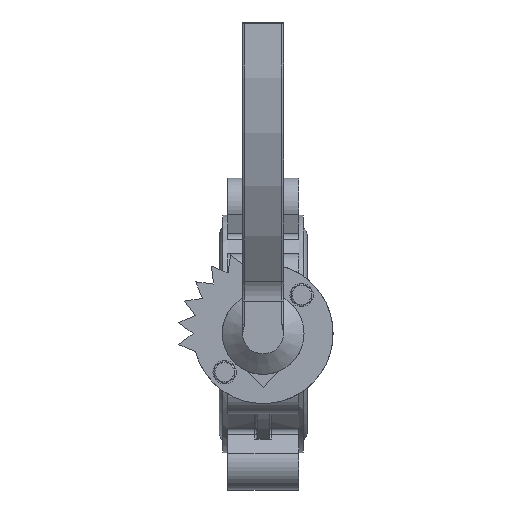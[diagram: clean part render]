
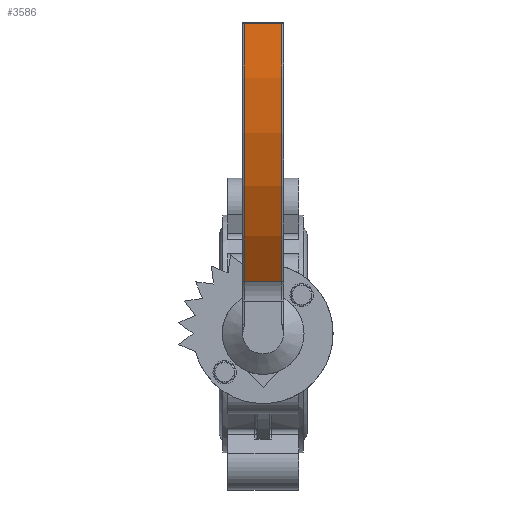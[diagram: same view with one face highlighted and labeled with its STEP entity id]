
A CAD part, top view. The second image highlights one B-rep face of the part: STEP entity #3586.
In plain terms, the highlighted cylindrical face has radius 218.256 mm (diameter 436.512 mm), a partial arc.
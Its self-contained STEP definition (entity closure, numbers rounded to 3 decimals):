
#3586=ADVANCED_FACE('',(#8316),#8318,.T.);
#8316=FACE_BOUND('',#8317,.T.);
#8317=EDGE_LOOP('',(#12516,#12517,#12518,#12519));
#8318=CYLINDRICAL_SURFACE('',#8319,218.256);
#8319=AXIS2_PLACEMENT_3D('',#8320,#8321,#8322);
#8320=CARTESIAN_POINT('',(169.067,-13.125,-146.14));
#8321=DIRECTION('',(0.,1.,0.));
#8322=DIRECTION('',(-0.622,0.,0.783));
#12516=ORIENTED_EDGE('',*,*,#14296,.F.);
#12517=ORIENTED_EDGE('',*,*,#14321,.F.);
#12518=ORIENTED_EDGE('',*,*,#14314,.T.);
#12519=ORIENTED_EDGE('',*,*,#14322,.T.);
#14296=EDGE_CURVE('',#17032,#17035,#17036,.T.);
#14314=EDGE_CURVE('',#17060,#17061,#17062,.T.);
#14321=EDGE_CURVE('',#17060,#17032,#17069,.T.);
#14322=EDGE_CURVE('',#17061,#17035,#17070,.T.);
#17032=VERTEX_POINT('',#26109);
#17035=VERTEX_POINT('',#26118);
#17036=CIRCLE('',#26119,218.256);
#17060=VERTEX_POINT('',#26186);
#17061=VERTEX_POINT('',#26187);
#17062=CIRCLE('',#26188,218.256);
#17069=LINE('',#26251,#26252);
#17070=LINE('',#26254,#26255);
#26109=CARTESIAN_POINT('',(33.291,12.125,24.741));
#26118=CARTESIAN_POINT('',(199.138,12.125,70.034));
#26119=AXIS2_PLACEMENT_3D('',#26120,#26121,#26122);
#26120=CARTESIAN_POINT('',(169.067,12.125,-146.14));
#26121=DIRECTION('',(0.,1.,0.));
#26122=DIRECTION('',(-0.622,0.,0.783));
#26186=CARTESIAN_POINT('',(33.291,-12.125,24.741));
#26187=CARTESIAN_POINT('',(199.138,-12.125,70.034));
#26188=AXIS2_PLACEMENT_3D('',#26189,#26190,#26191);
#26189=CARTESIAN_POINT('',(169.067,-12.125,-146.14));
#26190=DIRECTION('',(0.,1.,0.));
#26191=DIRECTION('',(-0.622,0.,0.783));
#26251=CARTESIAN_POINT('',(33.291,-12.125,24.741));
#26252=VECTOR('',#26253,1.);
#26253=DIRECTION('',(0.,1.,0.));
#26254=CARTESIAN_POINT('',(199.138,-12.125,70.034));
#26255=VECTOR('',#26256,1.);
#26256=DIRECTION('',(0.,1.,0.));
